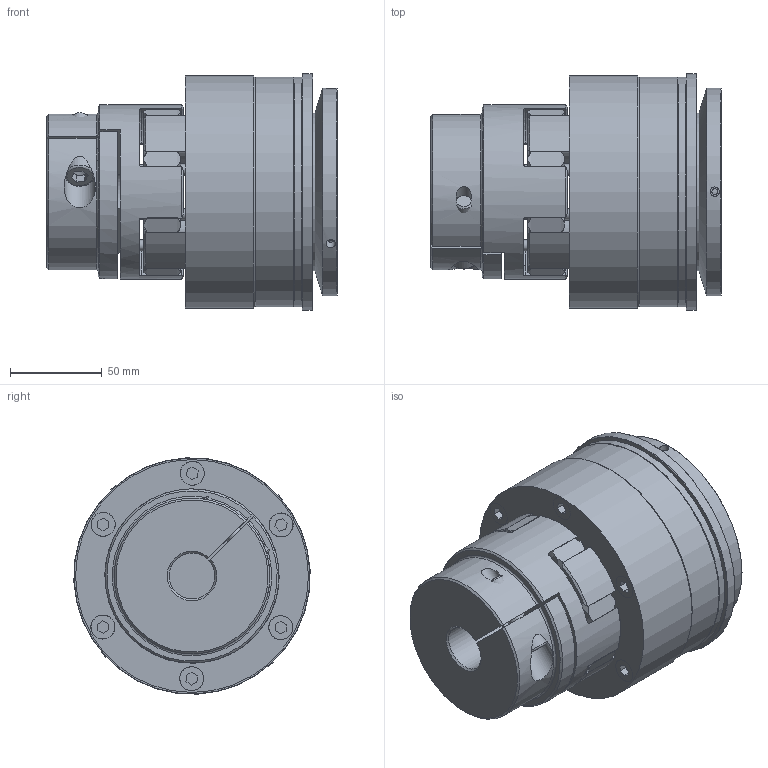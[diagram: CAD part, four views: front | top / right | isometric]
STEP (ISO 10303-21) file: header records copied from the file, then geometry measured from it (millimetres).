
FILE_DESCRIPTION( ( 'Unknown' ), '1' );
FILE_NAME( 'C:/Users/skarpstein/Desktop/Korrigierte 3D Modelle/KBK-E-KP/KBK EKP-42.stp', 'Unknown', ( 'Unknown' ), ( 'Unknown' ), 'PSStep 16.0.42', 'Unknown', ' ' );
FILE_SCHEMA( ( 'AUTOMOTIVE_DESIGN { 1 0 10303 214 1 1 1 1 }' ) );
Length unit declared in the file: millimetre
Products named in the file (27): ball_bearing_-_6013_0_01; ball_bearing_-_6013_0_03; ball_bearing_-_6013_0_02; Zylinderschraube DIN 912_2; KBK L-P-500 Grundkörper; Assem1_3; Flansch 500; Druckring 500; Assem2_1; a_65; Zahnkranz 42; Stellring 500; Elastormerflansch 42; Assem1; KBE 2 - 42_Nabe; Socket Head Cap Screw_DIN_DIN 912 M10 x 35 --- 35C
Assembly tree (31 placements, depth 4):
  Assem1
    KBE 2 - 42_Nabe
    Socket Head Cap Screw_DIN_DIN 912 M10 x 35 --- 35C
    KBK L-P-500 Grundkörper
      KBK L-P-500 Grundkörper
    Stellring 500
      Stellring 500
    Druckring 500
      Druckring 500
    Flansch 500
      Flansch 500
    a_65
      a_65
    Zahnkranz 42
      Zahnkranz 42
    Elastormerflansch 42
      Elastormerflansch 42
    Assem1_3
      ball_bearing_-_6013_0_01
        ball_bearing_-_6013_0_01
      ball_bearing_-_6013_0_02
        ball_bearing_-_6013_0_02
      ball_bearing_-_6013_0_03
        ball_bearing_-_6013_0_03
    Assem2_1  x6
      Zylinderschraube DIN 912_2
        Zylinderschraube DIN 912_2
Bounding box: 158.4 x 128.86 x 128.86 mm (x, y, z)
Volume: 1251901 mm3; surface area: 272228.7 mm2
Topology: 18 solids, 18 shells, 433 faces, 987 edges, 638 vertices
Faces by surface type: plane 159, cylinder 150, cone 100, torus 24
Full cylindrical faces by diameter (mm): 3 x2, 3.242 x3, 5.1 x3, 5.2 x3, 6 x8, 6.647 x6, 8 x6, 8.2 x6, 8.376 x1, 10 x1, 10.5 x1, 13 x6, 13.1 x6, 16 x1, 17 x1, 25 x1, 40 x1, 46 x2, 54 x1, 62 x1, 65 x3, 76.3 x2, 86 x2, 89.1 x2, 91 x1, 95 x1, 100 x3, 104.5 x1, 113 x1, 114 x1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
Entity records: 13921 total; most frequent: CARTESIAN_POINT 2576, DIRECTION 1806, ORIENTED_EDGE 1396, AXIS2_PLACEMENT_3D 824, EDGE_CURVE 698, EDGE_LOOP 560, VERTEX_POINT 511, FACE_OUTER_BOUND 451
